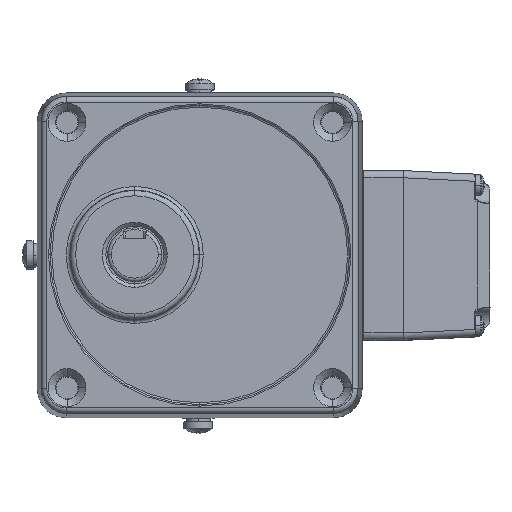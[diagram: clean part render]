
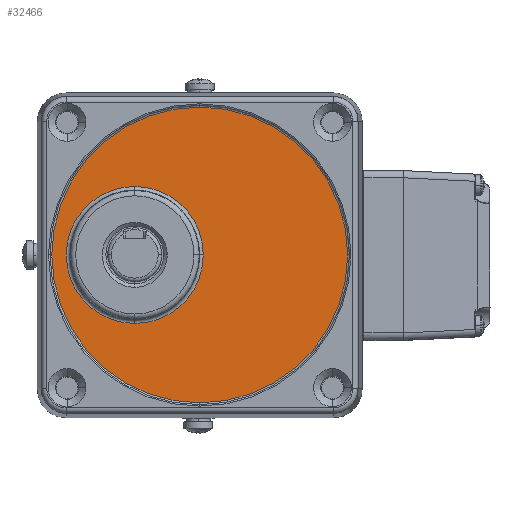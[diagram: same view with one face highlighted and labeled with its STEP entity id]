
A CAD part, top view. The second image highlights one B-rep face of the part: STEP entity #32466.
In plain terms, the highlighted planar face has unit normal (0, 0, 1) as drawn and (1, 0, 0) by its records, which use the part's own axes.
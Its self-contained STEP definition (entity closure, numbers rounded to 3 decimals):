
#511 = ORIENTED_EDGE ( 'NONE', *, *, #49270, .F. ) ;
#1474 = EDGE_CURVE ( 'NONE', #23827, #19356, #46874, .T. ) ;
#1628 = AXIS2_PLACEMENT_3D ( 'NONE', #1966, #55685, #38101 ) ;
#1775 = FACE_BOUND ( 'NONE', #9638, .T. ) ;
#1966 = CARTESIAN_POINT ( 'NONE',  ( 2703.292, -793.157, 0. ) ) ;
#2021 = CARTESIAN_POINT ( 'NONE',  ( 2703.292, -775.157, 0. ) ) ;
#3321 = VERTEX_POINT ( 'NONE', #14906 ) ;
#4119 = CARTESIAN_POINT ( 'NONE',  ( 2703.292, -774.175, 0. ) ) ;
#4821 = CARTESIAN_POINT ( 'NONE',  ( 2703.292, -775.157, -40.991 ) ) ;
#5345 = PLANE ( 'NONE',  #43393 ) ;
#8958 = ORIENTED_EDGE ( 'NONE', *, *, #19467, .F. ) ;
#9638 = EDGE_LOOP ( 'NONE', ( #48128, #511, #10012 ) ) ;
#10012 = ORIENTED_EDGE ( 'NONE', *, *, #1474, .F. ) ;
#10021 = DIRECTION ( 'NONE',  ( 0., 0., 1. ) ) ;
#10060 = DIRECTION ( 'NONE',  ( 1., 0., 0. ) ) ;
#13380 = AXIS2_PLACEMENT_3D ( 'NONE', #36153, #40853, #44915 ) ;
#14457 = CARTESIAN_POINT ( 'NONE',  ( 2703.292, -793.157, 0. ) ) ;
#14906 = CARTESIAN_POINT ( 'NONE',  ( 2703.292, -793.157, -18.983 ) ) ;
#15273 = AXIS2_PLACEMENT_3D ( 'NONE', #14457, #27377, #49648 ) ;
#15641 = AXIS2_PLACEMENT_3D ( 'NONE', #2021, #54859, #10021 ) ;
#15658 = DIRECTION ( 'NONE',  ( 0., 0., 1. ) ) ;
#17621 = CIRCLE ( 'NONE', #1628, 18.983 ) ;
#19356 = VERTEX_POINT ( 'NONE', #29675 ) ;
#19467 = EDGE_CURVE ( 'NONE', #21736, #57810, #34975, .T. ) ;
#21230 = CARTESIAN_POINT ( 'NONE',  ( 2703.292, -775.157, 0. ) ) ;
#21583 = AXIS2_PLACEMENT_3D ( 'NONE', #33260, #24436, #42329 ) ;
#21736 = VERTEX_POINT ( 'NONE', #4821 ) ;
#23234 = AXIS2_PLACEMENT_3D ( 'NONE', #21230, #38523, #15658 ) ;
#23827 = VERTEX_POINT ( 'NONE', #4119 ) ;
#24436 = DIRECTION ( 'NONE',  ( 1., 0., 0. ) ) ;
#26122 = EDGE_CURVE ( 'NONE', #3321, #23827, #29223, .T. ) ;
#27377 = DIRECTION ( 'NONE',  ( 1., 0., 0. ) ) ;
#28289 = ORIENTED_EDGE ( 'NONE', *, *, #40947, .F. ) ;
#29223 = CIRCLE ( 'NONE', #15273, 18.983 ) ;
#29675 = CARTESIAN_POINT ( 'NONE',  ( 2703.292, -793.157, 18.983 ) ) ;
#32466 = ADVANCED_FACE ( 'NONE', ( #42014, #1775 ), #5345, .T. ) ;
#33260 = CARTESIAN_POINT ( 'NONE',  ( 2703.292, -793.157, 0. ) ) ;
#34218 = CARTESIAN_POINT ( 'NONE',  ( 2703.292, -734.166, 0. ) ) ;
#34975 = CIRCLE ( 'NONE', #13380, 40.991 ) ;
#36153 = CARTESIAN_POINT ( 'NONE',  ( 2703.292, -775.157, 0. ) ) ;
#37613 = CARTESIAN_POINT ( 'NONE',  ( 2703.292, -775.157, 0. ) ) ;
#38101 = DIRECTION ( 'NONE',  ( 0., 0., 1. ) ) ;
#38523 = DIRECTION ( 'NONE',  ( -1., 0., 0. ) ) ;
#40853 = DIRECTION ( 'NONE',  ( -1., 0., 0. ) ) ;
#40947 = EDGE_CURVE ( 'NONE', #44696, #21736, #55035, .T. ) ;
#41971 = ORIENTED_EDGE ( 'NONE', *, *, #48542, .F. ) ;
#42014 = FACE_OUTER_BOUND ( 'NONE', #53675, .T. ) ;
#42329 = DIRECTION ( 'NONE',  ( 0., 0., -1. ) ) ;
#43393 = AXIS2_PLACEMENT_3D ( 'NONE', #37613, #10060, #46696 ) ;
#44696 = VERTEX_POINT ( 'NONE', #34218 ) ;
#44915 = DIRECTION ( 'NONE',  ( 0., 0., -1. ) ) ;
#45662 = CIRCLE ( 'NONE', #15641, 40.991 ) ;
#46696 = DIRECTION ( 'NONE',  ( 0., 1., 0. ) ) ;
#46874 = CIRCLE ( 'NONE', #21583, 18.983 ) ;
#48128 = ORIENTED_EDGE ( 'NONE', *, *, #26122, .F. ) ;
#48542 = EDGE_CURVE ( 'NONE', #57810, #44696, #45662, .T. ) ;
#49270 = EDGE_CURVE ( 'NONE', #19356, #3321, #17621, .T. ) ;
#49648 = DIRECTION ( 'NONE',  ( 0., 0., -1. ) ) ;
#53675 = EDGE_LOOP ( 'NONE', ( #8958, #28289, #41971 ) ) ;
#54859 = DIRECTION ( 'NONE',  ( -1., 0., 0. ) ) ;
#55035 = CIRCLE ( 'NONE', #23234, 40.991 ) ;
#55685 = DIRECTION ( 'NONE',  ( 1., 0., 0. ) ) ;
#56228 = CARTESIAN_POINT ( 'NONE',  ( 2703.292, -775.157, 40.991 ) ) ;
#57810 = VERTEX_POINT ( 'NONE', #56228 ) ;
